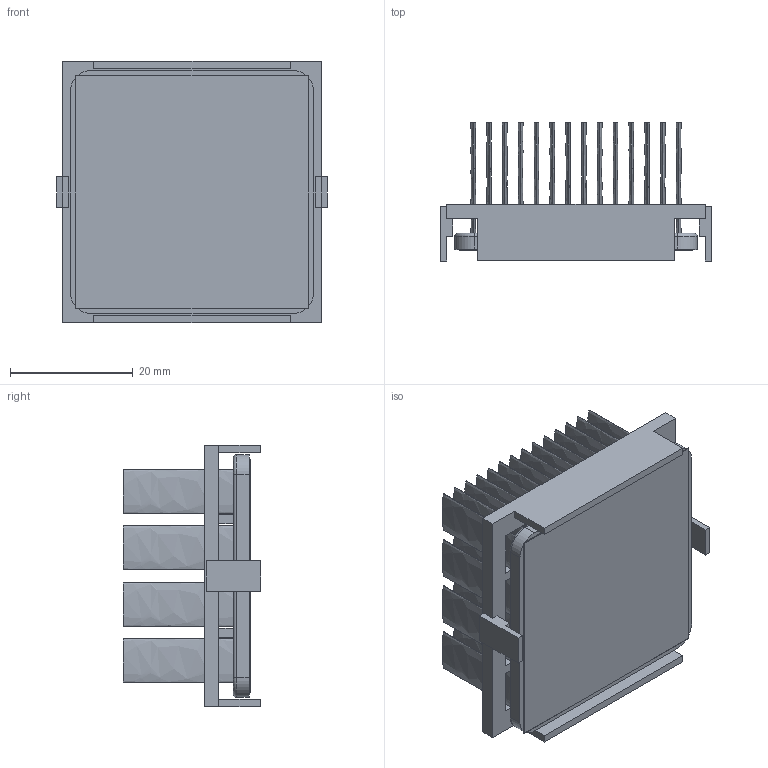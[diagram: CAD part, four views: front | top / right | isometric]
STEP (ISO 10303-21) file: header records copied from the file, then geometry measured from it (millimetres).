
FILE_DESCRIPTION (( 'STEP AP214' ), '1' );
FILE_NAME ('INM40001-21W-2.6BU.STEP', '2023-02-21T17:40:17', ( '' ), ( '' ), 'SwSTEP 2.0', 'SolidWorks 2020', '' );
FILE_SCHEMA (( 'AUTOMOTIVE_DESIGN' ));
Length unit declared in the file: inch
Products named in the file (1): INM40001-21W-2.6BU
Bounding box: 44.2 x 22.5 x 42.7 mm (x, y, z)
Volume: 10870.1 mm3; surface area: 24360.9 mm2
Topology: 3 solids, 3 shells, 250 faces, 556 edges, 368 vertices
Faces by surface type: plane 126, bspline 112, cylinder 8, torus 4
Entity records: 10428 total; most frequent: CARTESIAN_POINT 2631, ORIENTED_EDGE 1112, DIRECTION 630, EDGE_CURVE 556, VERTEX_POINT 368, VECTOR 312, LINE 312, EDGE_LOOP 308
